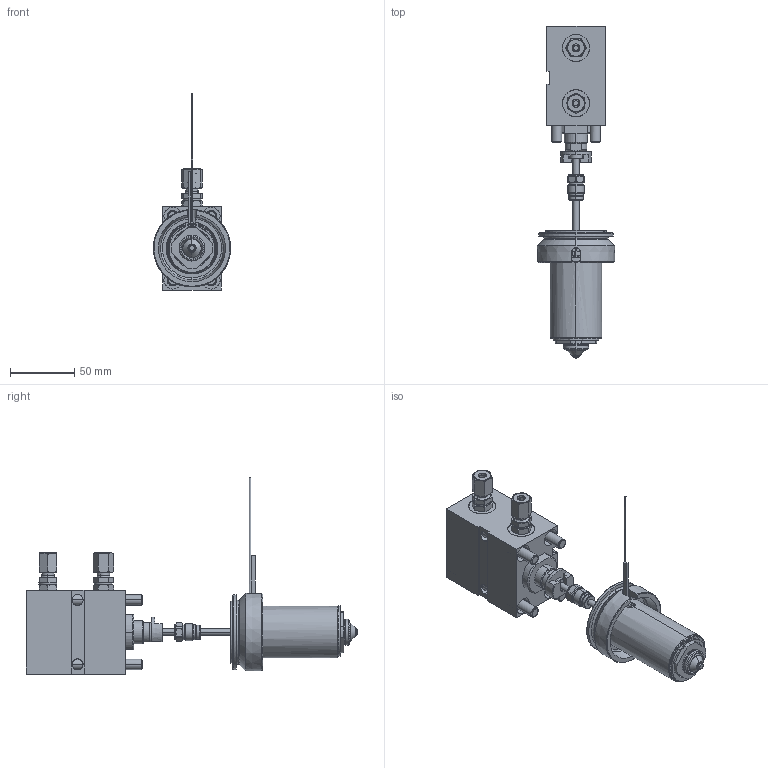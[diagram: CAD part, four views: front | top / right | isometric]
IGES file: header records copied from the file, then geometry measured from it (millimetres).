
Start section: Write IGES format                                    datakit 2008 (c)
Global section: file name: Unknown; native system: DATAKIT Converter; preprocessor: Unknown; author: Unknown; organization: Unknown; date: 950613.180003; units: millimetre
Bounding box: 59.97 x 257.5 x 152.15 mm (x, y, z)
Surface area: 136358.4 mm2 (no closed solid volume)
Topology: 0 solids, 0 shells, 787 faces, 3548 edges, 3530 vertices
Faces by surface type: revolution 508, bspline 279
